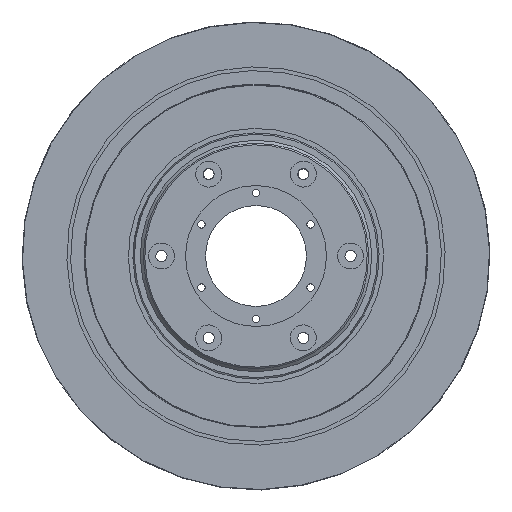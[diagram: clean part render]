
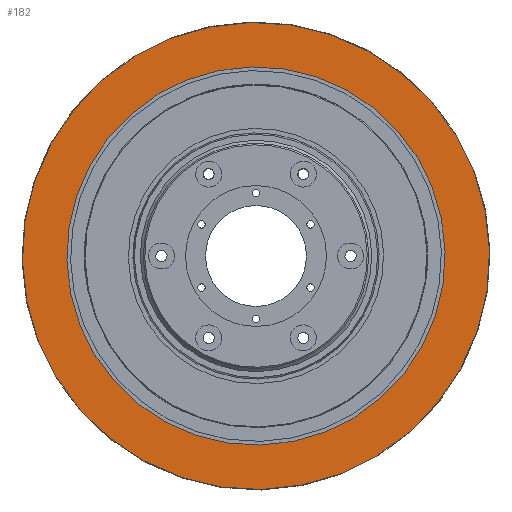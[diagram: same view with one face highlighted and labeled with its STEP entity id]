
A CAD part, front view. The second image highlights one B-rep face of the part: STEP entity #182.
In plain terms, the highlighted planar face has unit normal (0, -1, 0).
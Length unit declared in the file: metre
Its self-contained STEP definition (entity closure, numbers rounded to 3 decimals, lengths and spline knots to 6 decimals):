
#182 = ADVANCED_FACE( '', ( #515, #516 ), #517, .T. );
#515 = FACE_OUTER_BOUND( '', #1374, .T. );
#516 = FACE_BOUND( '', #1375, .T. );
#517 = PLANE( '', #1376 );
#1374 = EDGE_LOOP( '', ( #2193 ) );
#1375 = EDGE_LOOP( '', ( #2194 ) );
#1376 = AXIS2_PLACEMENT_3D( '', #2195, #2196, #2197 );
#2193 = ORIENTED_EDGE( '', *, *, #2562, .F. );
#2194 = ORIENTED_EDGE( '', *, *, #2389, .T. );
#2195 = CARTESIAN_POINT( '', ( 0., 0.0938, -0.063 ) );
#2196 = DIRECTION( '', ( 0., -1., 0. ) );
#2197 = DIRECTION( '', ( 0., 0., -1. ) );
#2389 = EDGE_CURVE( '', #2655, #2655, #2656, .T. );
#2562 = EDGE_CURVE( '', #2960, #2960, #2961, .T. );
#2655 = VERTEX_POINT( '', #3238 );
#2656 = CIRCLE( '', #3239, 0.051 );
#2960 = VERTEX_POINT( '', #3895 );
#2961 = CIRCLE( '', #3896, 0.063 );
#3238 = CARTESIAN_POINT( '', ( -0.024451, 0.0938, -0.044757 ) );
#3239 = AXIS2_PLACEMENT_3D( '', #3986, #3987, #3988 );
#3895 = CARTESIAN_POINT( '', ( -0.030204, 0.0938, -0.055288 ) );
#3896 = AXIS2_PLACEMENT_3D( '', #4323, #4324, #4325 );
#3986 = CARTESIAN_POINT( '', ( 0., 0.0938, 0. ) );
#3987 = DIRECTION( '', ( 0., 1., 0. ) );
#3988 = DIRECTION( '', ( -0.479, 0., -0.878 ) );
#4323 = CARTESIAN_POINT( '', ( 0., 0.0938, 0. ) );
#4324 = DIRECTION( '', ( 0., 1., 0. ) );
#4325 = DIRECTION( '', ( -0.479, 0., -0.878 ) );
